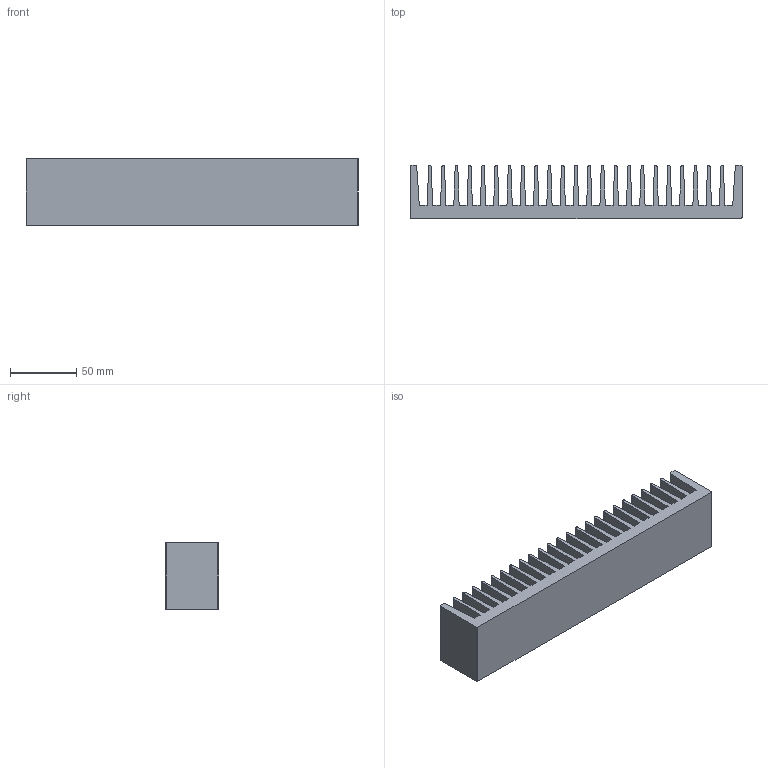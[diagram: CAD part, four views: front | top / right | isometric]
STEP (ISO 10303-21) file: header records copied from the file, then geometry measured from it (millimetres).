
FILE_DESCRIPTION (( 'STEP AP214' ), '1' );
FILE_NAME ('PR325.STEP', '2013-07-10T14:55:04', ( '' ), ( '' ), 'SwSTEP 2.0', 'SolidWorks 2013', '' );
FILE_SCHEMA (( 'AUTOMOTIVE_DESIGN' ));
Length unit declared in the file: millimetre
Products named in the file (1): PR325
Bounding box: 250 x 40 x 50 mm (x, y, z)
Volume: 244847.3 mm3; surface area: 107273.2 mm2
Topology: 1 solids, 1 shells, 108 faces, 318 edges, 212 vertices
Faces by surface type: plane 79, cylinder 29
Entity records: 3643 total; most frequent: CARTESIAN_POINT 726, ORIENTED_EDGE 636, DIRECTION 565, EDGE_CURVE 318, VECTOR 231, LINE 231, VERTEX_POINT 212, AXIS2_PLACEMENT_3D 167
